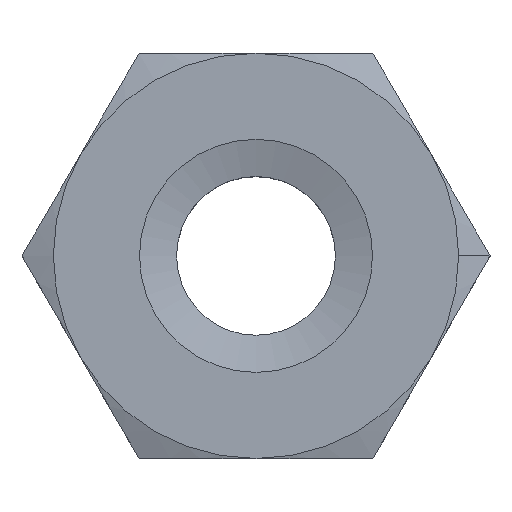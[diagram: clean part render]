
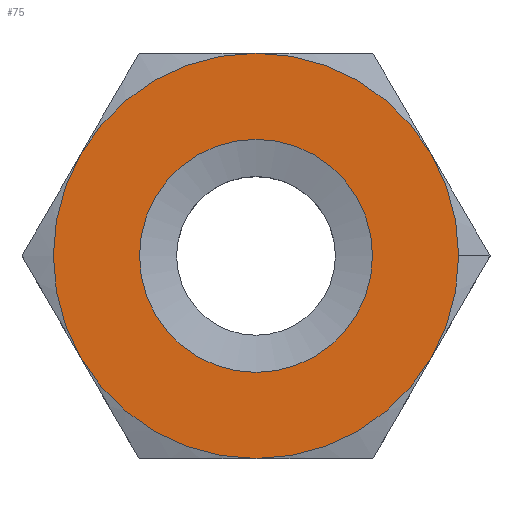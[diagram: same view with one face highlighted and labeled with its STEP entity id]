
A CAD part, top view. The second image highlights one B-rep face of the part: STEP entity #75.
In plain terms, the highlighted planar face has unit normal (0, 0, 1).
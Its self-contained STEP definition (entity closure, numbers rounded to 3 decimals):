
#31 = VERTEX_POINT('',#32);
#32 = CARTESIAN_POINT('',(1.15,0.,1.6));
#38 = EDGE_CURVE('',#31,#31,#39,.T.);
#39 = CIRCLE('',#40,1.15);
#40 = AXIS2_PLACEMENT_3D('',#41,#42,#43);
#41 = CARTESIAN_POINT('',(0.,0.,1.6));
#42 = DIRECTION('',(0.,0.,1.));
#43 = DIRECTION('',(1.,0.,-0.));
#75 = ADVANCED_FACE('',(#76,#79),#144,.T.);
#76 = FACE_BOUND('',#77,.F.);
#77 = EDGE_LOOP('',(#78));
#78 = ORIENTED_EDGE('',*,*,#38,.T.);
#79 = FACE_BOUND('',#80,.F.);
#80 = EDGE_LOOP('',(#81,#92,#101,#110,#119,#128,#137));
#81 = ORIENTED_EDGE('',*,*,#82,.F.);
#82 = EDGE_CURVE('',#83,#85,#87,.T.);
#83 = VERTEX_POINT('',#84);
#84 = CARTESIAN_POINT('',(2.,0.,1.6));
#85 = VERTEX_POINT('',#86);
#86 = CARTESIAN_POINT('',(1.732,1.,1.6));
#87 = CIRCLE('',#88,2.);
#88 = AXIS2_PLACEMENT_3D('',#89,#90,#91);
#89 = CARTESIAN_POINT('',(0.,0.,1.6));
#90 = DIRECTION('',(0.,0.,1.));
#91 = DIRECTION('',(1.,0.,-0.));
#92 = ORIENTED_EDGE('',*,*,#93,.F.);
#93 = EDGE_CURVE('',#94,#83,#96,.T.);
#94 = VERTEX_POINT('',#95);
#95 = CARTESIAN_POINT('',(1.732,-1.,1.6));
#96 = CIRCLE('',#97,2.);
#97 = AXIS2_PLACEMENT_3D('',#98,#99,#100);
#98 = CARTESIAN_POINT('',(0.,0.,1.6));
#99 = DIRECTION('',(0.,0.,1.));
#100 = DIRECTION('',(1.,0.,-0.));
#101 = ORIENTED_EDGE('',*,*,#102,.F.);
#102 = EDGE_CURVE('',#103,#94,#105,.T.);
#103 = VERTEX_POINT('',#104);
#104 = CARTESIAN_POINT('',(0.,-2.,1.6));
#105 = CIRCLE('',#106,2.);
#106 = AXIS2_PLACEMENT_3D('',#107,#108,#109);
#107 = CARTESIAN_POINT('',(0.,0.,1.6));
#108 = DIRECTION('',(0.,0.,1.));
#109 = DIRECTION('',(1.,0.,-0.));
#110 = ORIENTED_EDGE('',*,*,#111,.F.);
#111 = EDGE_CURVE('',#112,#103,#114,.T.);
#112 = VERTEX_POINT('',#113);
#113 = CARTESIAN_POINT('',(-1.732,-1.,1.6));
#114 = CIRCLE('',#115,2.);
#115 = AXIS2_PLACEMENT_3D('',#116,#117,#118);
#116 = CARTESIAN_POINT('',(0.,0.,1.6));
#117 = DIRECTION('',(0.,0.,1.));
#118 = DIRECTION('',(1.,0.,-0.));
#119 = ORIENTED_EDGE('',*,*,#120,.F.);
#120 = EDGE_CURVE('',#121,#112,#123,.T.);
#121 = VERTEX_POINT('',#122);
#122 = CARTESIAN_POINT('',(-1.732,1.,1.6));
#123 = CIRCLE('',#124,2.);
#124 = AXIS2_PLACEMENT_3D('',#125,#126,#127);
#125 = CARTESIAN_POINT('',(0.,0.,1.6));
#126 = DIRECTION('',(0.,0.,1.));
#127 = DIRECTION('',(1.,0.,-0.));
#128 = ORIENTED_EDGE('',*,*,#129,.F.);
#129 = EDGE_CURVE('',#130,#121,#132,.T.);
#130 = VERTEX_POINT('',#131);
#131 = CARTESIAN_POINT('',(0.,2.,1.6));
#132 = CIRCLE('',#133,2.);
#133 = AXIS2_PLACEMENT_3D('',#134,#135,#136);
#134 = CARTESIAN_POINT('',(0.,0.,1.6));
#135 = DIRECTION('',(0.,0.,1.));
#136 = DIRECTION('',(1.,0.,-0.));
#137 = ORIENTED_EDGE('',*,*,#138,.F.);
#138 = EDGE_CURVE('',#85,#130,#139,.T.);
#139 = CIRCLE('',#140,2.);
#140 = AXIS2_PLACEMENT_3D('',#141,#142,#143);
#141 = CARTESIAN_POINT('',(0.,0.,1.6));
#142 = DIRECTION('',(0.,0.,1.));
#143 = DIRECTION('',(1.,0.,-0.));
#144 = PLANE('',#145);
#145 = AXIS2_PLACEMENT_3D('',#146,#147,#148);
#146 = CARTESIAN_POINT('',(0.,0.,1.6));
#147 = DIRECTION('',(0.,0.,1.));
#148 = DIRECTION('',(1.,0.,-0.));
